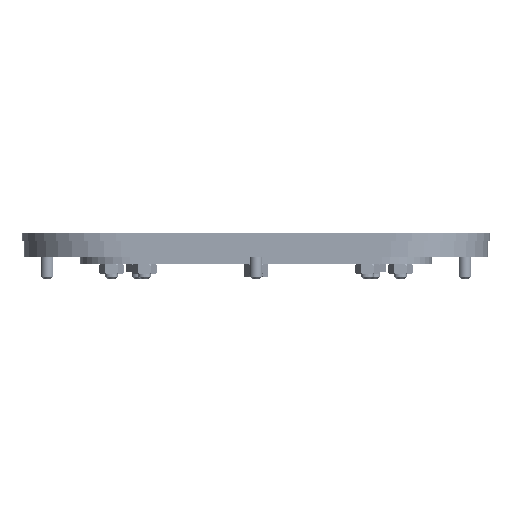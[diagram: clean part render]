
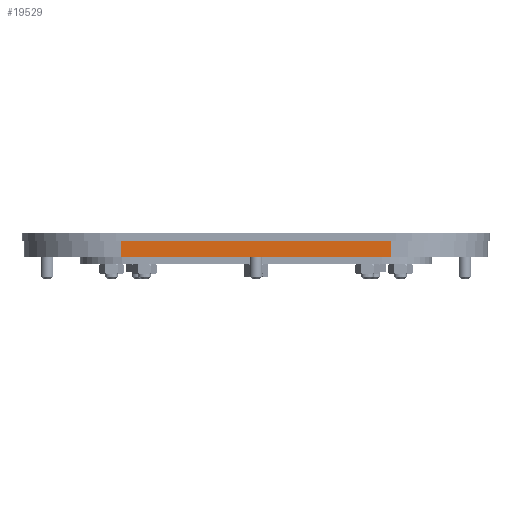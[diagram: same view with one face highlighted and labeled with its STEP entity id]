
A CAD part, left-side view. The second image highlights one B-rep face of the part: STEP entity #19529.
In plain terms, the highlighted planar face has unit normal (-1, 0, 0).
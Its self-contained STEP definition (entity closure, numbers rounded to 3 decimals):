
#1127=LINE('',#31696,#1333);
#1128=LINE('',#31699,#1334);
#1129=LINE('',#31701,#1335);
#1130=LINE('',#31703,#1336);
#1333=VECTOR('',#27313,1000.);
#1334=VECTOR('',#27314,1000.);
#1335=VECTOR('',#27315,1000.);
#1336=VECTOR('',#27316,1000.);
#4491=ORIENTED_EDGE('',*,*,#6259,.T.);
#4492=ORIENTED_EDGE('',*,*,#6260,.T.);
#4493=ORIENTED_EDGE('',*,*,#6261,.F.);
#4494=ORIENTED_EDGE('',*,*,#6262,.T.);
#6259=EDGE_CURVE('',#7845,#7846,#1127,.T.);
#6260=EDGE_CURVE('',#7846,#7847,#1128,.T.);
#6261=EDGE_CURVE('',#7848,#7847,#1129,.T.);
#6262=EDGE_CURVE('',#7848,#7845,#1130,.F.);
#7845=VERTEX_POINT('',#31697);
#7846=VERTEX_POINT('',#31698);
#7847=VERTEX_POINT('',#31700);
#7848=VERTEX_POINT('',#31702);
#12109=EDGE_LOOP('',(#4491,#4492,#4493,#4494));
#14939=FACE_BOUND('',#12109,.T.);
#15361=PLANE('',#22106);
#19529=ADVANCED_FACE('',(#14939),#15361,.T.);
#22106=AXIS2_PLACEMENT_3D('',#31695,#27311,#27312);
#27311=DIRECTION('',(-1.,0.,0.));
#27312=DIRECTION('',(0.,0.,1.));
#27313=DIRECTION('',(0.,-1.,0.));
#27314=DIRECTION('',(0.,0.,1.));
#27315=DIRECTION('',(0.,-1.,0.));
#27316=DIRECTION('',(0.,0.,1.));
#31695=CARTESIAN_POINT('',(-266.5,74.,-5.));
#31696=CARTESIAN_POINT('',(-266.5,74.,-5.));
#31697=CARTESIAN_POINT('',(-266.5,43.,-5.));
#31698=CARTESIAN_POINT('',(-266.5,-43.,-5.));
#31699=CARTESIAN_POINT('',(-266.5,-43.,-5.));
#31700=CARTESIAN_POINT('',(-266.5,-43.,0.));
#31701=CARTESIAN_POINT('',(-266.5,74.,0.));
#31702=CARTESIAN_POINT('',(-266.5,43.,0.));
#31703=CARTESIAN_POINT('',(-266.5,43.,-5.));
